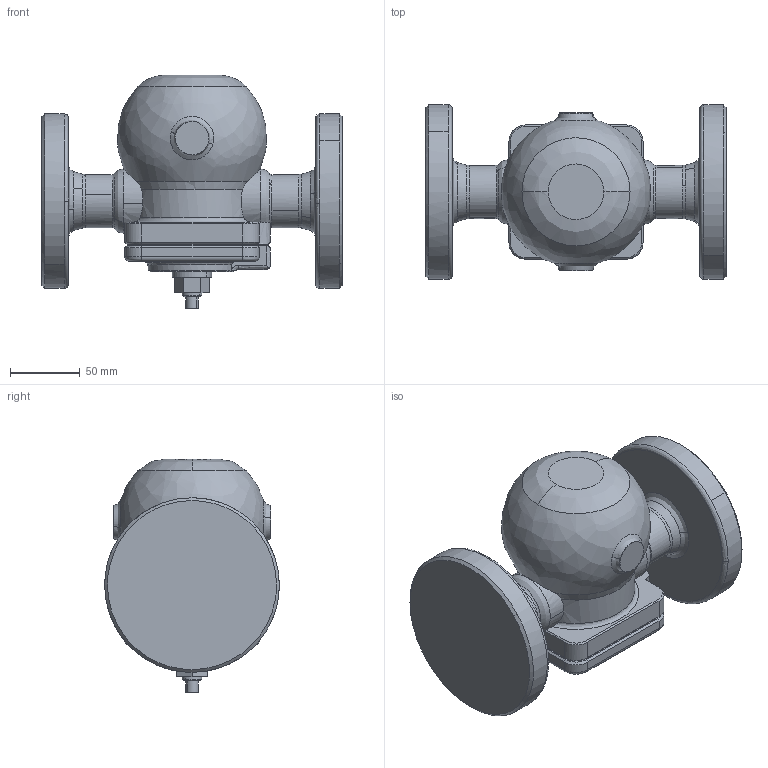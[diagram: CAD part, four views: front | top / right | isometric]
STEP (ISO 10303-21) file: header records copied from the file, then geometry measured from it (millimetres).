
FILE_DESCRIPTION((''),'2;1');
FILE_NAME('','2019-08-30T15:02:51',(''),(''),'','CADfix','');
FILE_SCHEMA(('AUTOMOTIVE_DESIGN { 1 0 10303 214 1 1 1 1 }'));
Length unit declared in the file: millimetre
Bounding box: 215 x 125 x 167 mm (x, y, z)
Volume: 1601610.2 mm3; surface area: 133528.3 mm2
Topology: 1 solids, 1 shells, 173 faces, 560 edges, 401 vertices
Faces by surface type: bspline 173
Entity records: 9139 total; most frequent: CARTESIAN_POINT 5937, ORIENTED_EDGE 1120, EDGE_CURVE 560, VERTEX_POINT 401, B_SPLINE_CURVE_WITH_KNOTS 309, QUASI_UNIFORM_CURVE 188, EDGE_LOOP 185, FACE_OUTER_BOUND 173
